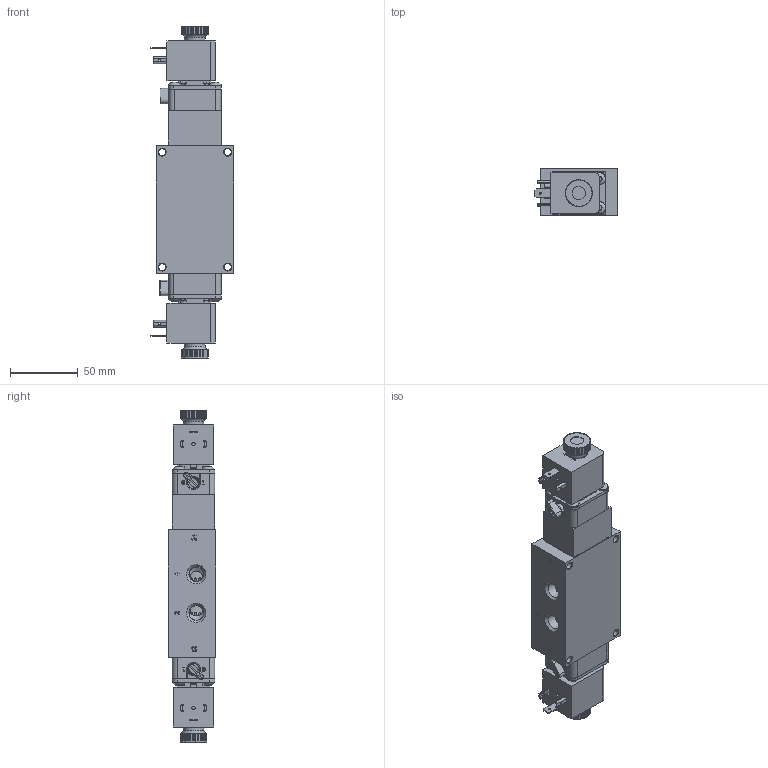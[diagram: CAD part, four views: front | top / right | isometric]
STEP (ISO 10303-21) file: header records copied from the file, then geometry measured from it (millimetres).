
FILE_DESCRIPTION(/* description */ (''),/* implementation_level */ '2;1');
FILE_NAME(/* name */ 'D:\Engineering\Product\valves\Assembly\standard\ESS\stp\ZESS2HOLQ.stp',/* time_stamp */ '2022-06-22T09:01:16-04:00',/* author */ ('RMcKenna'),/* organization */ (''),/* preprocessor_version */ 'ST-DEVELOPER v18.1',/* originating_system */ 'Autodesk Inventor 2021',/* authorisation */ '');
FILE_SCHEMA (('AUTOMOTIVE_DESIGN { 1 0 10303 214 3 1 1 }'));
Products named in the file (1): Part97
Bounding box: 61.39 x 34.92 x 245.43 mm (x, y, z)
Volume: 289749.7 mm3; surface area: 92973.3 mm2
Topology: 3 solids, 21 shells, 2410 faces, 6151 edges, 3951 vertices
Faces by surface type: plane 1233, cylinder 664, cone 256, torus 145, bspline 104, sphere 8
Full cylindrical faces by diameter (mm): 1.3 x2, 1.397 x2, 1.5 x2, 1.651 x4, 2.032 x16, 2.35 x8, 2.5 x4, 2.8 x2, 3 x8, 3.048 x2, 3.175 x1, 3.4 x2, 3.683 x10, 4.191 x4, 4.394 x1, 4.826 x8, 4.978 x2, 5.15 x8, 5.156 x16, 5.159 x4, 5.5 x2, 6.65 x2, 7.315 x2, 7.9 x2, 8 x4, 8.128 x2, 8.433 x2, 8.6 x4, 9.144 x4, 9.169 x8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
Entity records: 80319 total; most frequent: CARTESIAN_POINT 19329, ORIENTED_EDGE 12276, DIRECTION 12053, EDGE_CURVE 6138, AXIS2_PLACEMENT_3D 4360, VERTEX_POINT 3951, LINE 3333, VECTOR 3333
